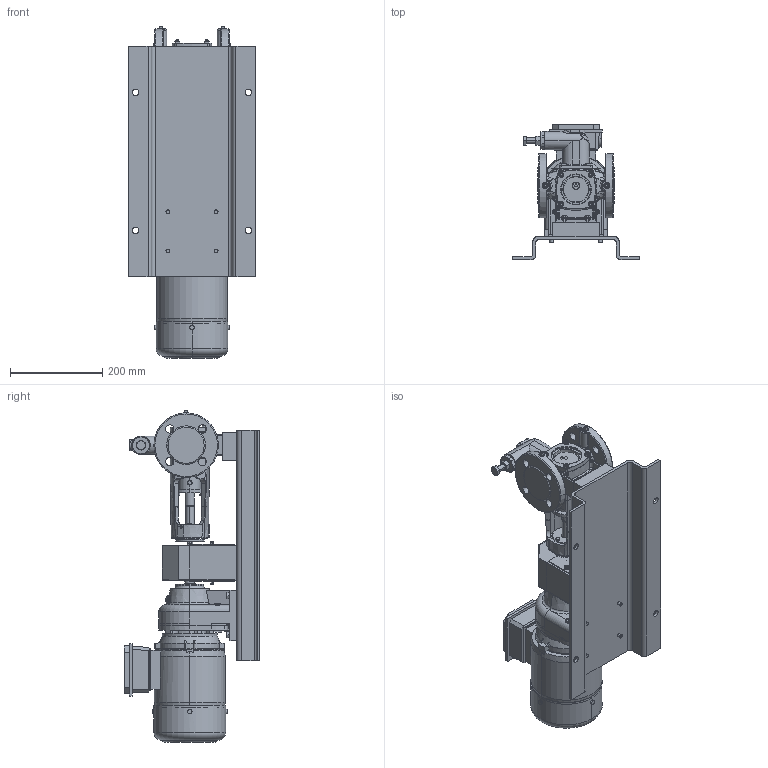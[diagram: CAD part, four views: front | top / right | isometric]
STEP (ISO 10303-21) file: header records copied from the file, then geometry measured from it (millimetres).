
FILE_DESCRIPTION((''),'2;1');
FILE_NAME('5964CD33EFM_ASM','2019-04-26T',('erya'),(''),'PRO/ENGINEER BY PARAMETRIC TECHNOLOGY CORPORATION, 2017170','PRO/ENGINEER BY PARAMETRIC TECHNOLOGY CORPORATION, 2017170','');
FILE_SCHEMA(('CONFIG_CONTROL_DESIGN'));
Products named in the file (37): 1033-001DA516; 0030-072JA; 1033-002AA; 1033-021AC; 1026-003DA116; 1026-020CA; 0059-020GA116; 0006-036AB020; 3008-080GA116; 704376; 0010-045CA220; 0012-042EA; 0012-042ED; 3400-030CA; M5X16; 3008-098GA; M6; 704390; KA106392; _SK01-80LH; 0051-024EC430; 1022-049AB020; 760279; 1022-046AA081; 8306BYPASSCD26-33-41_ASM; 704381; GUARD-1; GUARD-2; 711153; 2348543; 715568; GUARD_ASM; 704389; 706287; 704447; 700306; 5964CD33EFM_ASM
Assembly tree (74 placements, depth 3):
  5964CD33EFM_ASM
    1033-001DA516
    0030-072JA  x2
    1033-002AA
    1033-021AC
    1026-003DA116
    1026-020CA
    0059-020GA116
    0006-036AB020
    3008-080GA116  x2
    704376  x2
    0010-045CA220
    0012-042EA
    0012-042ED
    3400-030CA
    M5X16  x4
    3008-098GA  x4
    M6  x4
    704390  x2
    KA106392
    _SK01-80LH
    8306BYPASSCD26-33-41_ASM
      0051-024EC430
      1022-049AB020
      760279
      1022-046AA081
    704381  x4
    GUARD_ASM
      GUARD-1
      GUARD-2  x2
      711153  x4
      2348543  x4
      715568  x4
    704389  x4
    706287  x4
    704447  x4
    700306  x4
Bounding box: 275 x 294.5 x 720.97 mm (x, y, z)
Volume: 3334450.6 mm3; surface area: 1217031.3 mm2
Topology: 81 solids, 122 shells, 3248 faces, 8031 edges, 5003 vertices
Faces by surface type: plane 1257, cylinder 993, cone 563, bspline 259, torus 157, sphere 19
Entity records: 99205 total; most frequent: CARTESIAN_POINT 34739, ORIENTED_EDGE 13292, DIRECTION 13260, EDGE_CURVE 6743, AXIS2_PLACEMENT_3D 5006, VERTEX_POINT 4249, VECTOR 3248, LINE 3248
